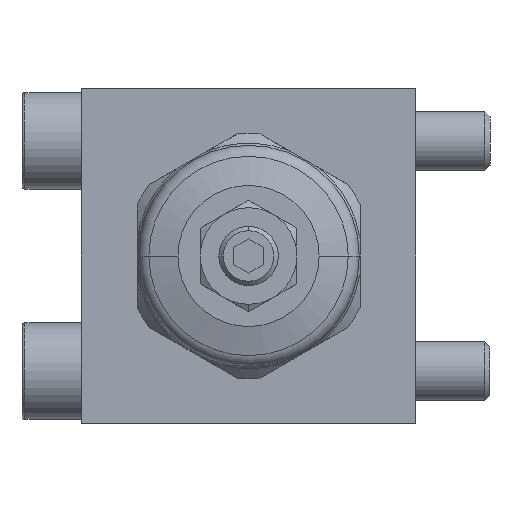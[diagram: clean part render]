
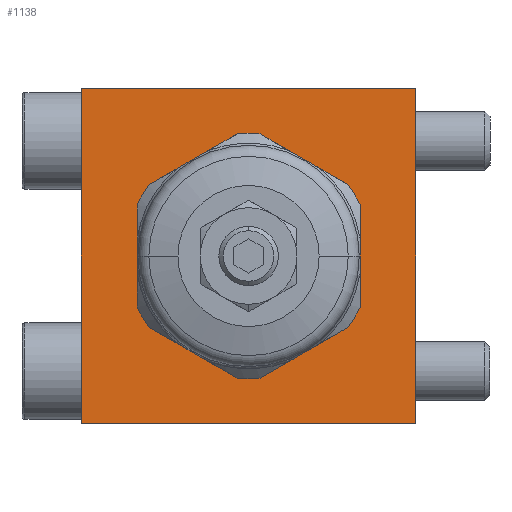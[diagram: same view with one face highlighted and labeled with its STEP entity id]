
A CAD part, left-side view. The second image highlights one B-rep face of the part: STEP entity #1138.
In plain terms, the highlighted planar face has unit normal (-1, 0, 0).
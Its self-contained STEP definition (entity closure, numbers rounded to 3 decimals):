
#944=PLANE('',#3728);
#999=FACE_BOUND('',#1526,.T.);
#1000=FACE_BOUND('',#1527,.T.);
#1138=ADVANCED_FACE('',(#999,#1000),#944,.T.);
#1526=EDGE_LOOP('',(#2077,#2078,#2079,#2080,#2081,#2082,#2083,#2084,#2085,
#2086,#2087,#2088));
#1527=EDGE_LOOP('',(#2089,#2090,#2091,#2092));
#1734=CIRCLE('',#3717,15.2);
#1735=CIRCLE('',#3719,15.2);
#1736=CIRCLE('',#3721,15.2);
#1737=CIRCLE('',#3723,15.2);
#1738=CIRCLE('',#3725,15.2);
#1739=CIRCLE('',#3727,15.2);
#2077=ORIENTED_EDGE('',*,*,#3031,.T.);
#2078=ORIENTED_EDGE('',*,*,#3045,.F.);
#2079=ORIENTED_EDGE('',*,*,#3046,.T.);
#2080=ORIENTED_EDGE('',*,*,#3047,.F.);
#2081=ORIENTED_EDGE('',*,*,#3043,.T.);
#2082=ORIENTED_EDGE('',*,*,#3048,.F.);
#2083=ORIENTED_EDGE('',*,*,#3040,.T.);
#2084=ORIENTED_EDGE('',*,*,#3049,.F.);
#2085=ORIENTED_EDGE('',*,*,#3037,.T.);
#2086=ORIENTED_EDGE('',*,*,#3050,.F.);
#2087=ORIENTED_EDGE('',*,*,#3034,.T.);
#2088=ORIENTED_EDGE('',*,*,#3051,.F.);
#2089=ORIENTED_EDGE('',*,*,#3052,.T.);
#2090=ORIENTED_EDGE('',*,*,#3053,.F.);
#2091=ORIENTED_EDGE('',*,*,#3054,.F.);
#2092=ORIENTED_EDGE('',*,*,#3055,.T.);
#2746=VERTEX_POINT('',#5217);
#2747=VERTEX_POINT('',#5219);
#2748=VERTEX_POINT('',#5229);
#2749=VERTEX_POINT('',#5231);
#2750=VERTEX_POINT('',#5241);
#2751=VERTEX_POINT('',#5243);
#2752=VERTEX_POINT('',#5253);
#2753=VERTEX_POINT('',#5255);
#2754=VERTEX_POINT('',#5265);
#2755=VERTEX_POINT('',#5267);
#2756=VERTEX_POINT('',#5274);
#2757=VERTEX_POINT('',#5276);
#2758=VERTEX_POINT('',#5283);
#2759=VERTEX_POINT('',#5284);
#2760=VERTEX_POINT('',#5286);
#2761=VERTEX_POINT('',#5288);
#3031=EDGE_CURVE('',#2747,#2746,#1734,.T.);
#3034=EDGE_CURVE('',#2749,#2748,#1735,.T.);
#3037=EDGE_CURVE('',#2751,#2750,#1736,.T.);
#3040=EDGE_CURVE('',#2753,#2752,#1737,.T.);
#3043=EDGE_CURVE('',#2755,#2754,#1738,.T.);
#3045=EDGE_CURVE('',#2756,#2746,#3330,.T.);
#3046=EDGE_CURVE('',#2756,#2757,#1739,.T.);
#3047=EDGE_CURVE('',#2755,#2757,#3331,.T.);
#3048=EDGE_CURVE('',#2753,#2754,#3332,.T.);
#3049=EDGE_CURVE('',#2751,#2752,#3333,.T.);
#3050=EDGE_CURVE('',#2749,#2750,#3334,.T.);
#3051=EDGE_CURVE('',#2747,#2748,#3335,.T.);
#3052=EDGE_CURVE('',#2758,#2759,#3336,.T.);
#3053=EDGE_CURVE('',#2760,#2759,#3337,.T.);
#3054=EDGE_CURVE('',#2761,#2760,#3338,.T.);
#3055=EDGE_CURVE('',#2761,#2758,#3339,.T.);
#3330=LINE('',#5273,#3493);
#3331=LINE('',#5277,#3494);
#3332=LINE('',#5278,#3495);
#3333=LINE('',#5279,#3496);
#3334=LINE('',#5280,#3497);
#3335=LINE('',#5281,#3498);
#3336=LINE('',#5282,#3499);
#3337=LINE('',#5285,#3500);
#3338=LINE('',#5287,#3501);
#3339=LINE('',#5289,#3502);
#3493=VECTOR('',#4286,1.);
#3494=VECTOR('',#4289,1.);
#3495=VECTOR('',#4290,1.);
#3496=VECTOR('',#4291,1.);
#3497=VECTOR('',#4292,1.);
#3498=VECTOR('',#4293,1.);
#3499=VECTOR('',#4294,1.);
#3500=VECTOR('',#4295,1.);
#3501=VECTOR('',#4296,1.);
#3502=VECTOR('',#4297,1.);
#3717=AXIS2_PLACEMENT_3D('',#5218,#4266,#4267);
#3719=AXIS2_PLACEMENT_3D('',#5230,#4270,#4271);
#3721=AXIS2_PLACEMENT_3D('',#5242,#4274,#4275);
#3723=AXIS2_PLACEMENT_3D('',#5254,#4278,#4279);
#3725=AXIS2_PLACEMENT_3D('',#5266,#4282,#4283);
#3727=AXIS2_PLACEMENT_3D('',#5275,#4287,#4288);
#3728=AXIS2_PLACEMENT_3D('',#5290,#4298,#4299);
#4266=DIRECTION('',(1.,0.,0.));
#4267=DIRECTION('',(0.,1.,0.));
#4270=DIRECTION('',(1.,0.,0.));
#4271=DIRECTION('',(0.,1.,0.));
#4274=DIRECTION('',(1.,0.,0.));
#4275=DIRECTION('',(0.,1.,0.));
#4278=DIRECTION('',(1.,0.,0.));
#4279=DIRECTION('',(0.,1.,0.));
#4282=DIRECTION('',(1.,0.,0.));
#4283=DIRECTION('',(0.,1.,0.));
#4286=DIRECTION('',(0.,0.866,0.5));
#4287=DIRECTION('',(1.,0.,0.));
#4288=DIRECTION('',(0.,1.,0.));
#4289=DIRECTION('',(0.,0.,1.));
#4290=DIRECTION('',(0.,-0.866,0.5));
#4291=DIRECTION('',(0.,-0.866,-0.5));
#4292=DIRECTION('',(0.,0.,-1.));
#4293=DIRECTION('',(0.,0.866,-0.5));
#4294=DIRECTION('',(0.,0.,1.));
#4295=DIRECTION('',(0.,-1.,0.));
#4296=DIRECTION('',(0.,0.,1.));
#4297=DIRECTION('',(0.,-1.,0.));
#4298=DIRECTION('',(-1.,0.,0.));
#4299=DIRECTION('',(0.,0.,-1.));
#5217=CARTESIAN_POINT('',(0.,17.128,14.219));
#5218=CARTESIAN_POINT('',(0.,22.5,0.));
#5219=CARTESIAN_POINT('',(0.,27.872,14.219));
#5229=CARTESIAN_POINT('',(0.,32.128,11.762));
#5230=CARTESIAN_POINT('',(0.,22.5,0.));
#5231=CARTESIAN_POINT('',(0.,37.5,2.458));
#5241=CARTESIAN_POINT('',(0.,37.5,-2.458));
#5242=CARTESIAN_POINT('',(0.,22.5,0.));
#5243=CARTESIAN_POINT('',(0.,32.128,-11.762));
#5253=CARTESIAN_POINT('',(0.,27.872,-14.219));
#5254=CARTESIAN_POINT('',(0.,22.5,0.));
#5255=CARTESIAN_POINT('',(0.,17.128,-14.219));
#5265=CARTESIAN_POINT('',(0.,12.872,-11.762));
#5266=CARTESIAN_POINT('',(0.,22.5,0.));
#5267=CARTESIAN_POINT('',(0.,7.5,-2.458));
#5273=CARTESIAN_POINT('',(0.,7.5,8.66));
#5274=CARTESIAN_POINT('',(0.,12.872,11.762));
#5275=CARTESIAN_POINT('',(0.,22.5,0.));
#5276=CARTESIAN_POINT('',(0.,7.5,2.458));
#5277=CARTESIAN_POINT('',(0.,7.5,-8.66));
#5278=CARTESIAN_POINT('',(0.,22.5,-17.321));
#5279=CARTESIAN_POINT('',(0.,37.5,-8.66));
#5280=CARTESIAN_POINT('',(0.,37.5,8.66));
#5281=CARTESIAN_POINT('',(0.,22.5,17.321));
#5282=CARTESIAN_POINT('',(0.,0.,-22.5));
#5283=CARTESIAN_POINT('',(0.,0.,-22.5));
#5284=CARTESIAN_POINT('',(0.,0.,22.5));
#5285=CARTESIAN_POINT('',(0.,0.,22.5));
#5286=CARTESIAN_POINT('',(0.,45.,22.5));
#5287=CARTESIAN_POINT('',(0.,45.,-22.5));
#5288=CARTESIAN_POINT('',(0.,45.,-22.5));
#5289=CARTESIAN_POINT('',(0.,0.,-22.5));
#5290=CARTESIAN_POINT('',(0.,0.,-22.5));
